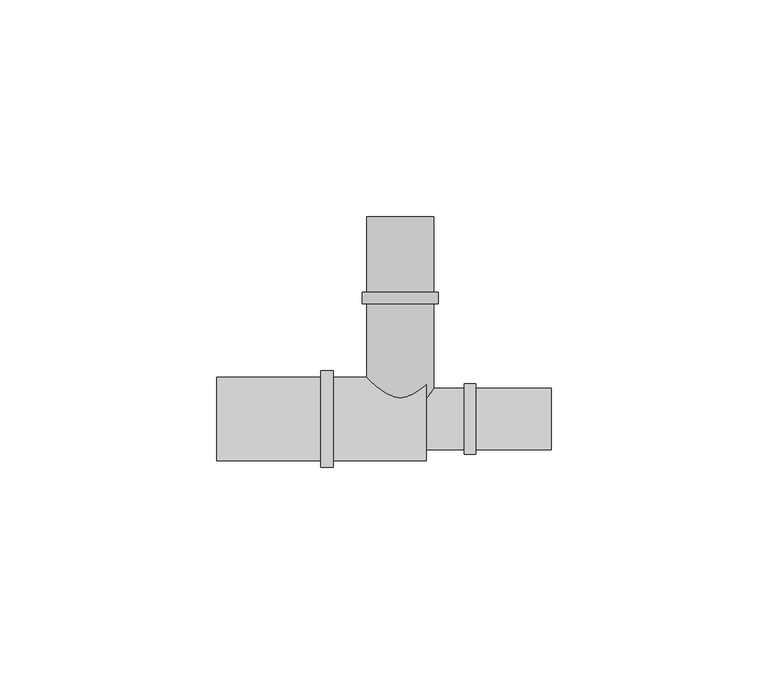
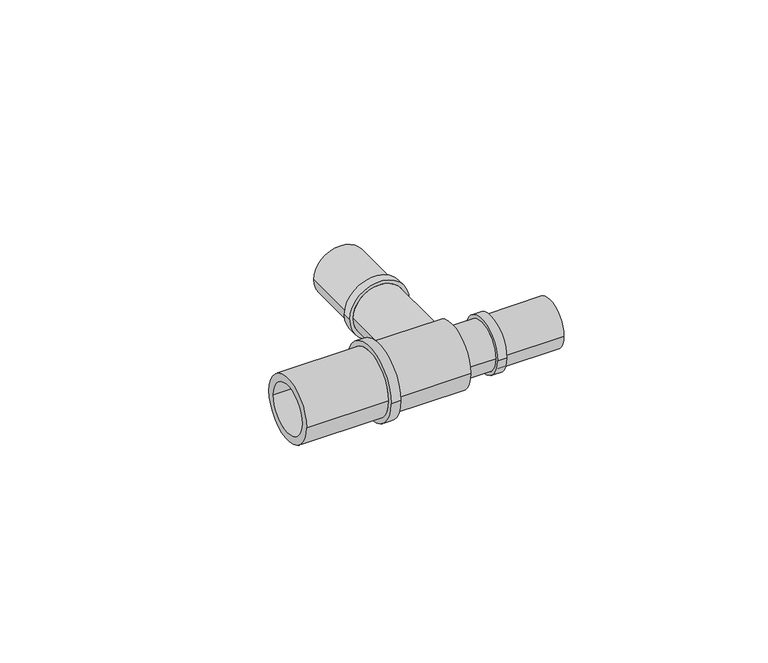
"""IFC4 building model written with IfcOpenShell, lengths in millimetres: pipe fitting geometry, FASTLOC_T-piece_LX : FSL T-Piece LX PL."""

from ifc_helpers import new_model, si_unit, frame, origin, place, context, project, spatial, polyline, circle_curve, source, transform, mapped, element, save
from ifc_brep_helpers import plane_surface, cylinder_surface, revolved_surface, advanced_brep


def pipe_fitting_d6df5a86(model_context):
    return source(origin(), model_context, "Body", "AdvancedBrep", [
        advanced_brep(
        [(5.75, 46.6, 0.0), (-5.75, 46.6, 0.0), (-5.75, 0.0, 0.0), (5.75, 0.0, 0.0), (7.75, 0.0, 0.0), (-7.75, 0.0, 0.0), (-7.75, 26.53, 0.0), (7.75, 26.53, 0.0), (8.8, 26.53, 0.0), (-8.8, 26.53, 0.0), (-8.8, 29.2, 0.0), (8.8, 29.2, 0.0), (7.75, 29.2, 0.0), (-7.75, 29.2, 0.0), (-7.75, 46.6, 0.0), (7.75, 46.6, 0.0)],
        [
            (0, 1, circle_curve(frame((0.0, 46.6, 0.0), z_axis=(0.0, 1.0, 0.0), x_axis=(-1.0, 0.0, 0.0)), 5.75)),
            (1, 2),
            (2, 3, circle_curve(frame((0.0, 0.0, 0.0), z_axis=(0.0, -1.0, 0.0), x_axis=(-1.0, 0.0, 0.0)), 5.75)),
            (3, 0),
            (4, 5, circle_curve(frame((0.0, 0.0, 0.0), z_axis=(0.0, 1.0, 0.0), x_axis=(-1.0, 0.0, 0.0)), 7.75)),
            (5, 6),
            (6, 7, circle_curve(frame((0.0, 26.53, 0.0), z_axis=(0.0, -1.0, 0.0), x_axis=(-1.0, 0.0, 0.0)), 7.75)),
            (7, 4),
            (8, 9, circle_curve(frame((0.0, 26.53, 0.0), z_axis=(0.0, 1.0, 0.0), x_axis=(-1.0, 0.0, 0.0)), 8.8)),
            (9, 10),
            (10, 11, circle_curve(frame((0.0, 29.2, 0.0), z_axis=(0.0, -1.0, 0.0), x_axis=(-1.0, 0.0, 0.0)), 8.8)),
            (11, 8),
            (12, 13, circle_curve(frame((0.0, 29.2, 0.0), z_axis=(0.0, 1.0, 0.0), x_axis=(-1.0, 0.0, 0.0)), 7.75)),
            (13, 14),
            (14, 15, circle_curve(frame((0.0, 46.6, 0.0), z_axis=(0.0, -1.0, 0.0), x_axis=(-1.0, 0.0, 0.0)), 7.75)),
            (15, 12),
            (1, 0, circle_curve(frame((0.0, 46.6, 0.0), z_axis=(0.0, 1.0, 0.0), x_axis=(1.0, 0.0, 0.0)), 5.75)),
            (3, 2, circle_curve(frame((0.0, 0.0, 0.0), z_axis=(0.0, -1.0, 0.0), x_axis=(1.0, 0.0, 0.0)), 5.75)),
            (4, 5, circle_curve(frame((0.0, 0.0, 0.0), z_axis=(0.0, -1.0, 0.0), x_axis=(1.0, 0.0, 0.0)), 7.75)),
            (7, 6, circle_curve(frame((0.0, 26.53, 0.0), z_axis=(0.0, -1.0, 0.0), x_axis=(1.0, 0.0, 0.0)), 7.75)),
            (8, 9, circle_curve(frame((0.0, 26.53, 0.0), z_axis=(0.0, -1.0, 0.0), x_axis=(1.0, 0.0, 0.0)), 8.8)),
            (11, 10, circle_curve(frame((0.0, 29.2, 0.0), z_axis=(0.0, -1.0, 0.0), x_axis=(1.0, 0.0, 0.0)), 8.8)),
            (12, 13, circle_curve(frame((0.0, 29.2, 0.0), z_axis=(0.0, -1.0, 0.0), x_axis=(1.0, 0.0, 0.0)), 7.75)),
            (15, 14, circle_curve(frame((0.0, 46.6, 0.0), z_axis=(0.0, -1.0, 0.0), x_axis=(1.0, 0.0, 0.0)), 7.75)),
        ],
        [
            revolved_surface(polyline([(-5.75, 0.0, 0.0), (-5.75, 46.6, 0.0)]), (0.0, 0.0, 0.0), (0.0, -1.0, 0.0)),
            cylinder_surface(frame((0.0, 0.0, 0.0), z_axis=(0.0, -1.0, 0.0), x_axis=(-1.0, 0.0, 0.0)), 7.75),
            cylinder_surface(frame((0.0, 0.0, 0.0), z_axis=(0.0, -1.0, 0.0), x_axis=(-1.0, 0.0, 0.0)), 8.8),
            revolved_surface(polyline([(5.75, 0.0, 0.0), (5.75, 46.6, 0.0)]), (0.0, 0.0, 0.0), (0.0, -1.0, 0.0)),
            plane_surface(frame((0.0, 0.0, 0.0), z_axis=(0.0, -1.0, 0.0), x_axis=(1.0, 0.0, 0.0))),
            cylinder_surface(frame((0.0, 0.0, 0.0), z_axis=(0.0, -1.0, 0.0), x_axis=(1.0, 0.0, 0.0)), 7.75),
            plane_surface(frame((0.0, 26.53, 0.0), z_axis=(0.0, -1.0, 0.0), x_axis=(1.0, 0.0, 0.0))),
            cylinder_surface(frame((0.0, 0.0, 0.0), z_axis=(0.0, -1.0, 0.0), x_axis=(1.0, 0.0, 0.0)), 8.8),
            plane_surface(frame((0.0, 29.2, 0.0), z_axis=(0.0, 1.0, 0.0), x_axis=(1.0, 0.0, 0.0))),
            plane_surface(frame((0.0, 46.6, 0.0), z_axis=(0.0, 1.0, 0.0), x_axis=(1.0, 0.0, 0.0))),
        ],
        [
            (0, [[1, 2, 3, 4]]),
            (1, [[5, 6, 7, 8]]),
            (2, [[9, 10, 11, 12]]),
            (1, [[13, 14, 15, 16]]),
            (3, [[17, -4, 18, -2]]),
            (4, [[19, -5], [-18, -3]]),
            (5, [[-19, -8, 20, -6]]),
            (6, [[21, -9], [-20, -7]]),
            (7, [[-21, -12, 22, -10]]),
            (8, [[-22, -11], [23, -13]]),
            (5, [[-23, -16, 24, -14]]),
            (9, [[-24, -15], [-17, -1]]),
        ],
    ),
        advanced_brep(
        [(14.73, 7.1, 0.0), (14.73, -7.1, 0.0), (6.0, -7.1, 0.0), (6.0, 7.1, 0.0), (17.4, 8.15, 0.0), (17.4, -8.15, 0.0), (14.73, -8.15, 0.0), (14.73, 8.15, 0.0), (34.8, 7.1, 0.0), (34.8, -7.1, 0.0), (17.4, -7.1, 0.0), (17.4, 7.1, 0.0), (4.0, 5.1, 0.0), (4.0, -5.1, 0.0), (34.8, -5.1, 0.0), (34.8, 5.1, 0.0), (-42.3, 7.35, 0.0), (-42.3, -7.35, 0.0), (4.0, -7.35, 0.0), (4.0, 7.35, 0.0), (-18.3, 9.6, 0.0), (-18.3, -9.6, 0.0), (-42.3, -9.6, 0.0), (-42.3, 9.6, 0.0), (-15.5, 11.1, 0.0), (-15.5, -11.1, 0.0), (-18.3, -11.1, 0.0), (-18.3, 11.1, 0.0), (6.0, 9.6, 0.0), (6.0, -9.6, 0.0), (-15.5, -9.6, 0.0), (-15.5, 9.6, 0.0)],
        [
            (0, 1, circle_curve(frame((14.73, 0.0, 0.0), z_axis=(-1.0, 0.0, 0.0), x_axis=(0.0, -1.0, 0.0)), 7.1)),
            (1, 2),
            (2, 3, circle_curve(frame((6.0, 0.0, 0.0), z_axis=(1.0, 0.0, 0.0), x_axis=(0.0, -1.0, 0.0)), 7.1)),
            (3, 0),
            (4, 5, circle_curve(frame((17.4, 0.0, 0.0), z_axis=(-1.0, 0.0, 0.0), x_axis=(0.0, -1.0, 0.0)), 8.15)),
            (5, 6),
            (6, 7, circle_curve(frame((14.73, 0.0, 0.0), z_axis=(1.0, 0.0, 0.0), x_axis=(0.0, -1.0, 0.0)), 8.15)),
            (7, 4),
            (8, 9, circle_curve(frame((34.8, 0.0, 0.0), z_axis=(-1.0, 0.0, 0.0), x_axis=(0.0, -1.0, 0.0)), 7.1)),
            (9, 10),
            (10, 11, circle_curve(frame((17.4, 0.0, 0.0), z_axis=(1.0, 0.0, 0.0), x_axis=(0.0, -1.0, 0.0)), 7.1)),
            (11, 8),
            (12, 13, circle_curve(frame((4.0, 0.0, 0.0), z_axis=(-1.0, 0.0, 0.0), x_axis=(0.0, -1.0, 0.0)), 5.1)),
            (13, 14),
            (14, 15, circle_curve(frame((34.8, 0.0, 0.0), z_axis=(1.0, 0.0, 0.0), x_axis=(0.0, -1.0, 0.0)), 5.1)),
            (15, 12),
            (16, 17, circle_curve(frame((-42.3, 0.0, 0.0), z_axis=(-1.0, 0.0, 0.0), x_axis=(0.0, -1.0, 0.0)), 7.35)),
            (17, 18),
            (18, 19, circle_curve(frame((4.0, 0.0, 0.0), z_axis=(1.0, 0.0, 0.0), x_axis=(0.0, -1.0, 0.0)), 7.35)),
            (19, 16),
            (20, 21, circle_curve(frame((-18.3, 0.0, 0.0), z_axis=(-1.0, 0.0, 0.0), x_axis=(0.0, -1.0, 0.0)), 9.6)),
            (21, 22),
            (22, 23, circle_curve(frame((-42.3, 0.0, 0.0), z_axis=(1.0, 0.0, 0.0), x_axis=(0.0, -1.0, 0.0)), 9.6)),
            (23, 20),
            (24, 25, circle_curve(frame((-15.5, 0.0, 0.0), z_axis=(-1.0, 0.0, 0.0), x_axis=(0.0, -1.0, 0.0)), 11.1)),
            (25, 26),
            (26, 27, circle_curve(frame((-18.3, 0.0, 0.0), z_axis=(1.0, 0.0, 0.0), x_axis=(0.0, -1.0, 0.0)), 11.1)),
            (27, 24),
            (28, 29, circle_curve(frame((6.0, 0.0, 0.0), z_axis=(-1.0, 0.0, 0.0), x_axis=(0.0, -1.0, 0.0)), 9.6)),
            (29, 30),
            (30, 31, circle_curve(frame((-15.5, 0.0, 0.0), z_axis=(1.0, 0.0, 0.0), x_axis=(0.0, -1.0, 0.0)), 9.6)),
            (31, 28),
            (28, 29, circle_curve(frame((6.0, 0.0, 0.0), z_axis=(1.0, 0.0, 0.0), x_axis=(0.0, 1.0, 0.0)), 9.6)),
            (2, 3, circle_curve(frame((6.0, 0.0, 0.0), z_axis=(-1.0, 0.0, 0.0), x_axis=(0.0, 1.0, 0.0)), 7.1)),
            (1, 0, circle_curve(frame((14.73, 0.0, 0.0), z_axis=(-1.0, 0.0, 0.0), x_axis=(0.0, 1.0, 0.0)), 7.1)),
            (6, 7, circle_curve(frame((14.73, 0.0, 0.0), z_axis=(-1.0, 0.0, 0.0), x_axis=(0.0, 1.0, 0.0)), 8.15)),
            (5, 4, circle_curve(frame((17.4, 0.0, 0.0), z_axis=(-1.0, 0.0, 0.0), x_axis=(0.0, 1.0, 0.0)), 8.15)),
            (10, 11, circle_curve(frame((17.4, 0.0, 0.0), z_axis=(-1.0, 0.0, 0.0), x_axis=(0.0, 1.0, 0.0)), 7.1)),
            (9, 8, circle_curve(frame((34.8, 0.0, 0.0), z_axis=(-1.0, 0.0, 0.0), x_axis=(0.0, 1.0, 0.0)), 7.1)),
            (14, 15, circle_curve(frame((34.8, 0.0, 0.0), z_axis=(-1.0, 0.0, 0.0), x_axis=(0.0, 1.0, 0.0)), 5.1)),
            (13, 12, circle_curve(frame((4.0, 0.0, 0.0), z_axis=(-1.0, 0.0, 0.0), x_axis=(0.0, 1.0, 0.0)), 5.1)),
            (18, 19, circle_curve(frame((4.0, 0.0, 0.0), z_axis=(-1.0, 0.0, 0.0), x_axis=(0.0, 1.0, 0.0)), 7.35)),
            (17, 16, circle_curve(frame((-42.3, 0.0, 0.0), z_axis=(-1.0, 0.0, 0.0), x_axis=(0.0, 1.0, 0.0)), 7.35)),
            (22, 23, circle_curve(frame((-42.3, 0.0, 0.0), z_axis=(-1.0, 0.0, 0.0), x_axis=(0.0, 1.0, 0.0)), 9.6)),
            (21, 20, circle_curve(frame((-18.3, 0.0, 0.0), z_axis=(-1.0, 0.0, 0.0), x_axis=(0.0, 1.0, 0.0)), 9.6)),
            (26, 27, circle_curve(frame((-18.3, 0.0, 0.0), z_axis=(-1.0, 0.0, 0.0), x_axis=(0.0, 1.0, 0.0)), 11.1)),
            (25, 24, circle_curve(frame((-15.5, 0.0, 0.0), z_axis=(-1.0, 0.0, 0.0), x_axis=(0.0, 1.0, 0.0)), 11.1)),
            (30, 31, circle_curve(frame((-15.5, 0.0, 0.0), z_axis=(-1.0, 0.0, 0.0), x_axis=(0.0, 1.0, 0.0)), 9.6)),
        ],
        [
            cylinder_surface(frame((0.0, 0.0, 0.0), z_axis=(1.0, 0.0, 0.0), x_axis=(0.0, -1.0, 0.0)), 7.1),
            cylinder_surface(frame((0.0, 0.0, 0.0), z_axis=(1.0, 0.0, 0.0), x_axis=(0.0, -1.0, 0.0)), 8.15),
            revolved_surface(polyline([(34.8, -5.1, 0.0), (4.0, -5.1, 0.0)]), (0.0, 0.0, 0.0), (1.0, 0.0, 0.0)),
            revolved_surface(polyline([(4.0, -7.35, 0.0), (-42.3, -7.35, 0.0)]), (0.0, 0.0, 0.0), (1.0, 0.0, 0.0)),
            cylinder_surface(frame((0.0, 0.0, 0.0), z_axis=(1.0, 0.0, 0.0), x_axis=(0.0, -1.0, 0.0)), 9.6),
            cylinder_surface(frame((0.0, 0.0, 0.0), z_axis=(1.0, 0.0, 0.0), x_axis=(0.0, -1.0, 0.0)), 11.1),
            plane_surface(frame((6.0, 0.0, 0.0), z_axis=(1.0, 0.0, 0.0), x_axis=(0.0, 1.0, 0.0))),
            cylinder_surface(frame((0.0, 0.0, 0.0), z_axis=(1.0, 0.0, 0.0), x_axis=(0.0, 1.0, 0.0)), 7.1),
            plane_surface(frame((14.73, 0.0, 0.0), z_axis=(-1.0, 0.0, 0.0), x_axis=(0.0, 1.0, 0.0))),
            cylinder_surface(frame((0.0, 0.0, 0.0), z_axis=(1.0, 0.0, 0.0), x_axis=(0.0, 1.0, 0.0)), 8.15),
            plane_surface(frame((17.4, 0.0, 0.0), z_axis=(1.0, 0.0, 0.0), x_axis=(0.0, 1.0, 0.0))),
            plane_surface(frame((34.8, 0.0, 0.0), z_axis=(1.0, 0.0, 0.0), x_axis=(0.0, 1.0, 0.0))),
            revolved_surface(polyline([(34.8, 5.1, 0.0), (4.0, 5.1, 0.0)]), (0.0, 0.0, 0.0), (1.0, 0.0, 0.0)),
            plane_surface(frame((4.0, 0.0, 0.0), z_axis=(-1.0, 0.0, 0.0), x_axis=(0.0, 1.0, 0.0))),
            revolved_surface(polyline([(4.0, 7.35, 0.0), (-42.3, 7.35, 0.0)]), (0.0, 0.0, 0.0), (1.0, 0.0, 0.0)),
            plane_surface(frame((-42.3, 0.0, 0.0), z_axis=(-1.0, 0.0, 0.0), x_axis=(0.0, 1.0, 0.0))),
            cylinder_surface(frame((0.0, 0.0, 0.0), z_axis=(1.0, 0.0, 0.0), x_axis=(0.0, 1.0, 0.0)), 9.6),
            plane_surface(frame((-18.3, 0.0, 0.0), z_axis=(-1.0, 0.0, 0.0), x_axis=(0.0, 1.0, 0.0))),
            cylinder_surface(frame((0.0, 0.0, 0.0), z_axis=(1.0, 0.0, 0.0), x_axis=(0.0, 1.0, 0.0)), 11.1),
            plane_surface(frame((-15.5, 0.0, 0.0), z_axis=(1.0, 0.0, 0.0), x_axis=(0.0, 1.0, 0.0))),
        ],
        [
            (0, [[1, 2, 3, 4]]),
            (1, [[5, 6, 7, 8]]),
            (0, [[9, 10, 11, 12]]),
            (2, [[13, 14, 15, 16]]),
            (3, [[17, 18, 19, 20]]),
            (4, [[21, 22, 23, 24]]),
            (5, [[25, 26, 27, 28]]),
            (4, [[29, 30, 31, 32]]),
            (6, [[33, -29], [34, -3]]),
            (7, [[35, -4, -34, -2]]),
            (8, [[36, -7], [-35, -1]]),
            (9, [[37, -8, -36, -6]]),
            (10, [[-37, -5], [38, -11]]),
            (7, [[39, -12, -38, -10]]),
            (11, [[-39, -9], [40, -15]]),
            (12, [[41, -16, -40, -14]]),
            (13, [[42, -19], [-41, -13]]),
            (14, [[43, -20, -42, -18]]),
            (15, [[44, -23], [-43, -17]]),
            (16, [[45, -24, -44, -22]]),
            (17, [[46, -27], [-45, -21]]),
            (18, [[47, -28, -46, -26]]),
            (19, [[-47, -25], [48, -31]]),
            (16, [[-33, -32, -48, -30]]),
        ],
    ),
    ])


if __name__ == "__main__":
    model = new_model("IFC4")
    model_context = context("Model", 3, world=origin())
    ifc_project = project(units=[si_unit("LENGTHUNIT", "METRE", prefix="MILLI")], contexts=[model_context])
    site = spatial("IfcSite", under=ifc_project)
    building = spatial("IfcBuilding", under=site)
    placement = place(None, origin())
    pipe_fitting_shape = pipe_fitting_d6df5a86(model_context)
    element("IfcPipeFitting", 1, ObjectType="FASTLOC_T-piece_LX : FSL T-Piece LX PL", at=placement, inside=building, context=model_context, shape_type="MappedRepresentation", body=[
        mapped(pipe_fitting_shape, transform((0.0, 0.0, 0.0), x_axis=(1.0, 0.0, 0.0), y_axis=(0.0, 1.0, 0.0), z_axis=(0.0, 0.0, 1.0))),
    ])
    save(model, "model.ifc")
